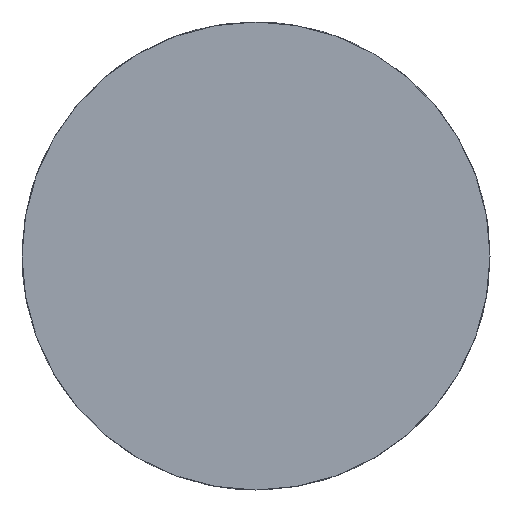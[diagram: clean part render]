
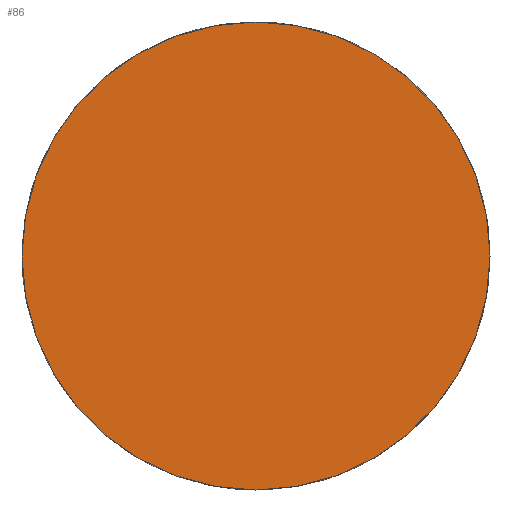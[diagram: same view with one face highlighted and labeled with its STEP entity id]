
A CAD part, left-side view. The second image highlights one B-rep face of the part: STEP entity #86.
In plain terms, the highlighted planar face has unit normal (-1, 0, 0).
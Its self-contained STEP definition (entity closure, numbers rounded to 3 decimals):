
#42=PLANE('',#82);
#47=ORIENTED_EDGE('',*,*,#52,.T.);
#49=CIRCLE('',#80,7.5);
#50=VERTEX_POINT('',#73);
#52=EDGE_CURVE('',#50,#50,#49,.T.);
#56=EDGE_LOOP('',(#47));
#60=FACE_BOUND('',#56,.T.);
#64=DIRECTION('',(-1.,0.,0.));
#65=DIRECTION('',(0.,7.5,0.));
#68=DIRECTION('',(-1.,0.,0.));
#69=DIRECTION('',(0.,1.,0.));
#73=CARTESIAN_POINT('',(14.725,0.,7.5));
#74=CARTESIAN_POINT('',(14.725,0.,0.));
#77=CARTESIAN_POINT('',(14.725,0.,7.5));
#80=AXIS2_PLACEMENT_3D('',#74,#64,#65);
#82=AXIS2_PLACEMENT_3D('',#77,#68,#69);
#86=ADVANCED_FACE('',(#60),#42,.T.);
